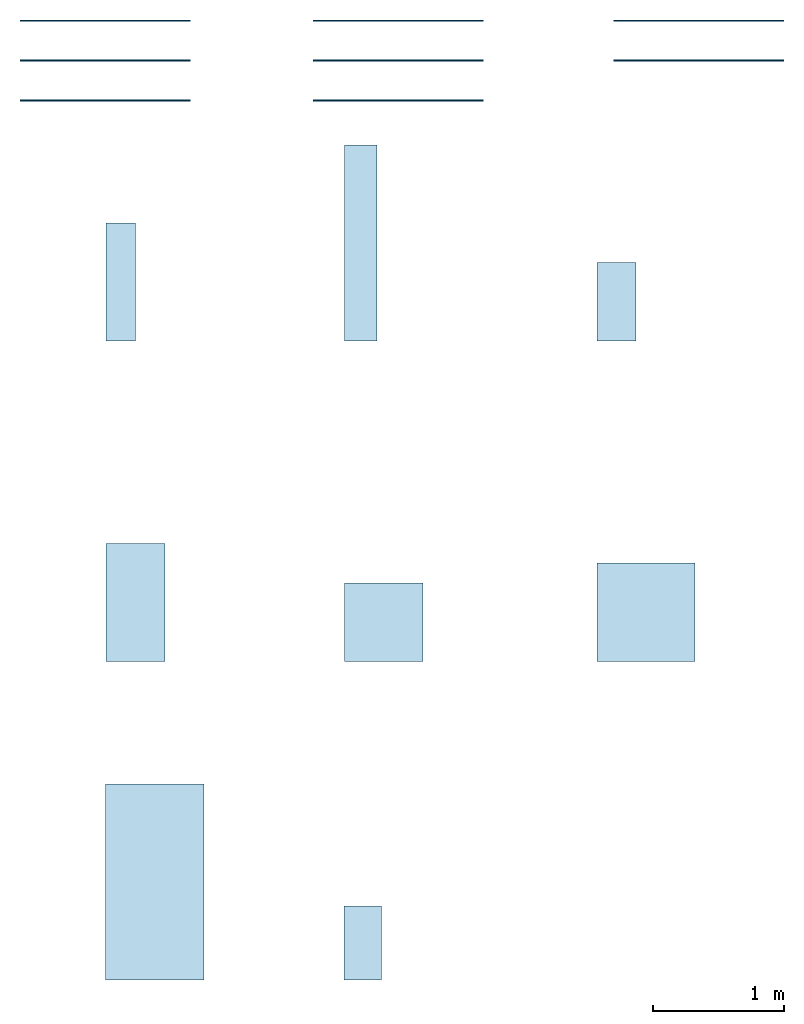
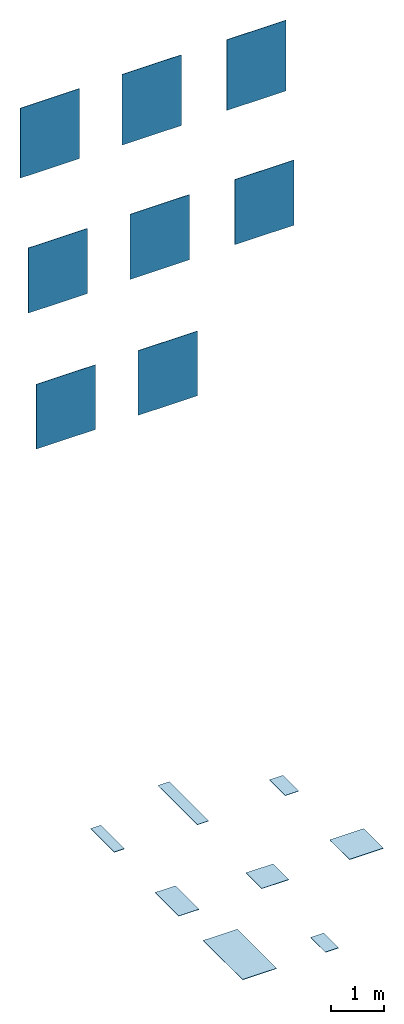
# One storey: 8 slabs, 8 walls.
"""IFC2X3 building model written with IfcOpenShell, lengths in millimetres."""

import ifcopenshell
import ifcopenshell.guid

model = None  # the IFC model being written
_history = None  # IfcOwnerHistory: only IFC2X3 demands one
_inside = {}  # id of a spatial element -> (the spatial element, [elements in it])
_under = {}  # id of a project, library or spatial element -> (it, [spatial elements below it])
_declared = {}  # id of a project -> (the project, [libraries it declares])
_typed = {}  # id of a type object -> (the type object, [elements of that type])
_made_of = {}  # id of a material, layer set ... -> (it, [elements and type objects made of it])


def new_model(schema):
    """Start an empty IFC model of exactly this schema.

    Asked for "IFC4X3", IfcOpenShell would pick the latest addendum, in which some entities
    have other attributes; the version numbers below select the first issue.
    IFC2X3 requires an IfcOwnerHistory on every rooted entity: one is made here for all.
    """
    global model, _history
    if schema == "IFC4X3":
        model = ifcopenshell.file(schema_version=(4, 3, 0, 0))
    else:
        model = ifcopenshell.file(schema=schema)
    _inside.clear()
    _under.clear()
    _declared.clear()
    _typed.clear()
    _made_of.clear()
    _history = None
    if model.schema == "IFC2X3":
        org = make("IfcOrganization", Name="unknown")
        user = make(
            "IfcPersonAndOrganization",
            ThePerson=make("IfcPerson", FamilyName="unknown"),
            TheOrganization=org,
        )
        app = make(
            "IfcApplication",
            ApplicationDeveloper=org,
            Version="unknown",
            ApplicationFullName="unknown",
            ApplicationIdentifier="unknown",
        )
        _history = make(
            "IfcOwnerHistory",
            OwningUser=user,
            OwningApplication=app,
            ChangeAction="ADDED",
            CreationDate=0,
        )
    return model


def make(cls, **values):
    """One entity of the class cls with the attributes given. An attribute that is None is left unset."""
    return model.create_entity(
        cls, **{name: value for name, value in values.items() if value is not None}
    )


def entity(cls, *values):
    """Any entity or typed value of the class cls, its attributes in the order of the schema. None: left unset."""
    e = model.create_entity(cls)
    for i, value in enumerate(values):
        if value is not None:
            e[i] = value
    return e


def rooted(cls, **values):
    """An entity with a GlobalId (a new one), such as an element, a storey or a relation."""
    return make(cls, GlobalId=ifcopenshell.guid.new(), OwnerHistory=_history, **values)


def si_unit(unit_type, name, prefix=None):
    """IfcSIUnit, for example si_unit("LENGTHUNIT", "METRE", prefix="MILLI")."""
    return make("IfcSIUnit", UnitType=unit_type, Prefix=prefix, Name=name)


def converted_unit(unit_type, name, factor, base, dimensions=None, offset=None):
    """IfcConversionBasedUnit, such as the inch: factor (a typed value) times the base unit."""
    return make(
        "IfcConversionBasedUnit"
        if offset is None
        else "IfcConversionBasedUnitWithOffset",
        ConversionOffset=offset,
        Dimensions=None
        if dimensions is None
        else entity("IfcDimensionalExponents", *dimensions),
        UnitType=unit_type,
        Name=name,
        ConversionFactor=make(
            "IfcMeasureWithUnit", ValueComponent=factor, UnitComponent=base
        ),
    )


def derived_unit(unit_type, elements):
    """IfcDerivedUnit: a product of units, each with its exponent."""
    return make(
        "IfcDerivedUnit",
        Elements=[
            make("IfcDerivedUnitElement", Unit=unit, Exponent=power)
            for unit, power in elements
        ],
        UnitType=unit_type,
    )


def assignment(units):
    """IfcUnitAssignment: the units of a project."""
    return None if units is None else make("IfcUnitAssignment", Units=units)


def point(xyz):
    """IfcCartesianPoint."""
    return None if xyz is None else make("IfcCartesianPoint", Coordinates=xyz)


def direction(xyz):
    """IfcDirection."""
    return None if xyz is None else make("IfcDirection", DirectionRatios=xyz)


def frame(location, z_axis=None, x_axis=None):
    """IfcAxis2Placement3D, a coordinate frame: its origin and axes. An axis left out is left unset."""
    return make(
        "IfcAxis2Placement3D",
        Location=point(location),
        Axis=direction(z_axis),
        RefDirection=direction(x_axis),
    )


def frame_2d(location, x_axis=None):
    """IfcAxis2Placement2D, a coordinate frame in the plane: its origin and x axis."""
    return make(
        "IfcAxis2Placement2D", Location=point(location), RefDirection=direction(x_axis)
    )


def origin():
    """The frame at (0, 0, 0) with its axes left unset."""
    return frame((0.0, 0.0, 0.0))


def origin_2d_with_axis():
    """The frame at (0, 0) in the plane with the x axis (1, 0) written out."""
    return frame_2d((0.0, 0.0), x_axis=(1.0, 0.0))


def place(relative_to, where):
    """IfcLocalPlacement: puts the frame where relative to a parent placement (None: the world)."""
    return make(
        "IfcLocalPlacement", PlacementRelTo=relative_to, RelativePlacement=where
    )


def context(
    kind, dimensions, precision=None, world=None, true_north=None, identifier=None
):
    """IfcGeometricRepresentationContext, for example the 3D "Model" context."""
    return make(
        "IfcGeometricRepresentationContext",
        ContextIdentifier=identifier,
        ContextType=kind,
        CoordinateSpaceDimension=dimensions,
        Precision=precision,
        WorldCoordinateSystem=world,
        TrueNorth=true_north,
    )


def subcontext(parent, identifier, kind, view, scale=None):
    """IfcGeometricRepresentationSubContext, for example "Body" below "Model"."""
    return make(
        "IfcGeometricRepresentationSubContext",
        ContextIdentifier=identifier,
        ContextType=kind,
        ParentContext=parent,
        TargetScale=scale,
        TargetView=view,
    )


def project(units=None, contexts=None):
    """IfcProject with its units and contexts."""
    return rooted(
        "IfcProject",
        Name="project",
        RepresentationContexts=contexts,
        UnitsInContext=assignment(units),
    )


def spatial(cls, under=None, at=None, **own):
    """A site, building, storey or space (cls), placed at a placement, below another one or the project."""
    s = rooted(cls, ObjectPlacement=at, **own)
    if under is not None:
        _under.setdefault(under.id(), (under, []))[1].append(s)
    return s


def profile(cls, at=None, kind="AREA", **sizes):
    """A parametric profile (cls). Its sizes go by their IFC names, for example OverallWidth=200.0."""
    return make(cls, ProfileType=kind, Position=at, **sizes)


def rectangle(**sizes):
    """IfcRectangleProfileDef."""
    return profile("IfcRectangleProfileDef", **sizes)


def extrude(swept, where, along, depth):
    """IfcExtrudedAreaSolid: the profile swept, set in the frame where, extruded along a direction by depth."""
    return make(
        "IfcExtrudedAreaSolid",
        SweptArea=swept,
        Position=where,
        ExtrudedDirection=direction(along),
        Depth=depth,
    )


def shape(context_of_items, identifier, shape_type, items):
    """IfcShapeRepresentation: the items that make up one representation, for example the "Body"."""
    return make(
        "IfcShapeRepresentation",
        ContextOfItems=context_of_items,
        RepresentationIdentifier=identifier,
        RepresentationType=shape_type,
        Items=items,
    )


def material(Name=None, Category=None):
    """IfcMaterial."""
    return make("IfcMaterial", Name=Name, Category=Category)


def layer(
    of_material, thickness, ventilated=None, Name=None, Category=None, Priority=None
):
    """IfcMaterialLayer: one layer of a wall or slab, of a material (None: an air gap)."""
    return make(
        "IfcMaterialLayer",
        Material=of_material,
        LayerThickness=thickness,
        IsVentilated=ventilated,
        Name=Name,
        Category=Category,
        Priority=Priority,
    )


def layer_set(layers, Name=None):
    """IfcMaterialLayerSet."""
    return make("IfcMaterialLayerSet", MaterialLayers=layers, LayerSetName=Name)


def layer_usage(for_layer_set, set_direction, sense, offset, extent=None):
    """IfcMaterialLayerSetUsage: how a layer set lies in its element."""
    return make(
        "IfcMaterialLayerSetUsage",
        ForLayerSet=for_layer_set,
        LayerSetDirection=set_direction,
        DirectionSense=sense,
        OffsetFromReferenceLine=offset,
        ReferenceExtent=extent,
    )


def made_of(thing, what):
    """Note that an element or type object is made of a material, layer set ...; save() writes the relation."""
    if what is not None:
        _made_of.setdefault(what.id(), (what, []))[1].append(thing)
    return thing


def type_object(cls, material=None, **own):
    """A type object (cls), such as IfcWallType, which elements share."""
    return made_of(rooted(cls, **own), material)


def element(
    cls,
    number,
    at=None,
    inside=None,
    cuts=None,
    type_object=None,
    material=None,
    context=None,
    identifier="Body",
    shape_type=None,
    held_by="IfcProductDefinitionShape",
    body=None,
    shapes=None,
    **own,
):
    """One element of the class cls, such as IfcWall. Its Tag is "e" and its number.

    at: its placement. inside: the storey or other place that contains it. cuts: it is an
    opening in that element (IfcRelVoidsElement). A single representation is given by context,
    identifier, shape_type and body (its items); several are given by shapes. held_by: the class
    of the entity that holds the representations. save() writes the other relations.
    """
    e = rooted(cls, Tag="e%d" % number, ObjectPlacement=at, **own)
    if body is not None:
        shapes = [shape(context, identifier, shape_type, body)]
    if shapes is not None:
        e.Representation = make(held_by, Representations=shapes)
    if inside is not None:
        _inside.setdefault(inside.id(), (inside, []))[1].append(e)
    if cuts is not None:
        rooted(
            "IfcRelVoidsElement", RelatingBuildingElement=cuts, RelatedOpeningElement=e
        )
    if type_object is not None:
        _typed.setdefault(type_object.id(), (type_object, []))[1].append(e)
    return made_of(e, material)


def aggregate(whole, parts):
    """IfcRelAggregates: a whole, such as a stair, and the parts it consists of."""
    return rooted("IfcRelAggregates", RelatingObject=whole, RelatedObjects=parts)


def save(model, path):
    """Write the relations noted so far, then the file.

    IfcRelAggregates (storeys below a building ...), IfcRelContainedInSpatialStructure (elements
    in a storey), IfcRelDefinesByType, IfcRelAssociatesMaterial and IfcRelDeclares: one each for
    every whole, place, type object, material and project.
    """
    for whole, parts in _under.values():
        aggregate(whole, parts)
    for where, things in _inside.values():
        rooted(
            "IfcRelContainedInSpatialStructure",
            RelatedElements=things,
            RelatingStructure=where,
        )
    for kind, things in _typed.values():
        rooted("IfcRelDefinesByType", RelatedObjects=things, RelatingType=kind)
    for what, things in _made_of.values():
        rooted("IfcRelAssociatesMaterial", RelatedObjects=things, RelatingMaterial=what)
    for by, libraries in _declared.values():
        rooted("IfcRelDeclares", RelatingContext=by, RelatedDefinitions=libraries)
    model.write(path)


model = new_model("IFC2X3")

# Units and contexts
model_context = context("Model", 3, precision=0.01, world=origin(), true_north=direction((6.12303176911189e-17, 1.0)))
body_context = subcontext(model_context, "Body", "Model", "MODEL_VIEW")
ifc_project = project(units=[si_unit("LENGTHUNIT", "METRE", prefix="MILLI"), si_unit("AREAUNIT", "SQUARE_METRE"), si_unit("VOLUMEUNIT", "CUBIC_METRE"), converted_unit("PLANEANGLEUNIT", "DEGREE", entity("IfcRatioMeasure", 0.0174532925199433), si_unit("PLANEANGLEUNIT", "RADIAN"), dimensions=[0, 0, 0, 0, 0, 0, 0]), si_unit("MASSUNIT", "GRAM", prefix="KILO"), derived_unit("MASSDENSITYUNIT", [(si_unit("MASSUNIT", "GRAM", prefix="KILO"), 1), (si_unit("LENGTHUNIT", "METRE"), -3)]), derived_unit("MOMENTOFINERTIAUNIT", [(si_unit("LENGTHUNIT", "METRE"), 4)]), si_unit("TIMEUNIT", "SECOND"), si_unit("FREQUENCYUNIT", "HERTZ"), si_unit("THERMODYNAMICTEMPERATUREUNIT", "DEGREE_CELSIUS"), derived_unit("THERMALTRANSMITTANCEUNIT", [(si_unit("MASSUNIT", "GRAM", prefix="KILO"), 1), (si_unit("THERMODYNAMICTEMPERATUREUNIT", "KELVIN"), -1), (si_unit("TIMEUNIT", "SECOND"), -3)]), derived_unit("VOLUMETRICFLOWRATEUNIT", [(si_unit("LENGTHUNIT", "METRE"), 3), (si_unit("TIMEUNIT", "SECOND"), -1)]), si_unit("ELECTRICCURRENTUNIT", "AMPERE"), si_unit("ELECTRICVOLTAGEUNIT", "VOLT"), si_unit("POWERUNIT", "WATT"), si_unit("FORCEUNIT", "NEWTON", prefix="KILO"), si_unit("ILLUMINANCEUNIT", "LUX"), si_unit("LUMINOUSFLUXUNIT", "LUMEN"), si_unit("LUMINOUSINTENSITYUNIT", "CANDELA"), derived_unit("USERDEFINED", [(si_unit("MASSUNIT", "GRAM", prefix="KILO"), -1), (si_unit("LENGTHUNIT", "METRE"), -2), (si_unit("TIMEUNIT", "SECOND"), 3), (si_unit("LUMINOUSFLUXUNIT", "LUMEN"), 1)]), derived_unit("LINEARVELOCITYUNIT", [(si_unit("LENGTHUNIT", "METRE"), 1), (si_unit("TIMEUNIT", "SECOND"), -1)]), si_unit("PRESSUREUNIT", "PASCAL"), derived_unit("USERDEFINED", [(si_unit("LENGTHUNIT", "METRE"), -2), (si_unit("MASSUNIT", "GRAM", prefix="KILO"), 1), (si_unit("TIMEUNIT", "SECOND"), -2)]), derived_unit("LINEARFORCEUNIT", [(si_unit("MASSUNIT", "GRAM", prefix="KILO"), 1), (si_unit("LENGTHUNIT", "METRE"), 1), (si_unit("TIMEUNIT", "SECOND"), -2), (si_unit("LENGTHUNIT", "METRE"), -1)]), derived_unit("PLANARFORCEUNIT", [(si_unit("MASSUNIT", "GRAM", prefix="KILO"), 1), (si_unit("LENGTHUNIT", "METRE"), 1), (si_unit("TIMEUNIT", "SECOND"), -2), (si_unit("LENGTHUNIT", "METRE"), -2)])], contexts=[model_context])

# Site, building, storey
site_placement = place(None, origin())
site = spatial("IfcSite", under=ifc_project, at=site_placement, Name="Default", CompositionType="ELEMENT")
building_placement = place(site_placement, origin())
building = spatial("IfcBuilding", under=site, at=building_placement, CompositionType="ELEMENT")
storey_placement = place(building_placement, origin())
storey = spatial("IfcBuildingStorey", under=building, at=storey_placement, Name="Level 0", CompositionType="ELEMENT", Elevation=0.0)

# Slabs
ifc_material_1 = material(Name="Plant-Powder-30x60 NE95")
ifc_layer_1 = layer(ifc_material_1, 9.0)
ifc_material_2 = material(Name="<Unnamed>")
ifc_layer_2 = layer(ifc_material_2, 1.0)
ifc_layer_set_1 = layer_set([ifc_layer_1, ifc_layer_2], Name="Floor:Floor_Tiles_Refin-Plant-Powder-30x60 NE95")
ifc_layer_usage_1 = layer_usage(ifc_layer_set_1, "AXIS3", "POSITIVE", 0.0)
slab_type_1 = type_object("IfcSlabType", Name="Floor:Floor_Tiles_Refin-Plant-Powder-30x60 NE95", PredefinedType="FLOOR", material=ifc_layer_set_1)
slab_1_placement = place(storey_placement, origin())
element("IfcSlab", 1, at=slab_1_placement, inside=storey, type_object=slab_type_1, material=ifc_layer_usage_1, Name="Floor:Floor_Tiles_Refin-Plant-Powder-30x60 NE95", ObjectType="Floor:Floor_Tiles_Refin-Plant-Powder-30x60 NE95", PredefinedType="FLOOR", context=body_context, shape_type="SweptSolid", body=[
    extrude(rectangle(XDim=600.0, YDim=299.999999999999, at=frame_2d((0.0, 1.08002495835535e-12), x_axis=(1.0, 0.0))), frame((10477.1861418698, 5989.46237428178, 0.0), z_axis=(0.0, 0.0, -1.0), x_axis=(0.0, 1.0, 0.0)), (0.0, 0.0, 1.0), 10.0),
])
ifc_material_3 = material(Name="Plant-Powder-22.5x90 LZ20")
ifc_layer_3 = layer(ifc_material_3, 9.0)
ifc_layer_4 = layer(ifc_material_2, 1.0)
ifc_layer_set_2 = layer_set([ifc_layer_3, ifc_layer_4], Name="Floor:Floor_Tiles_Refin-Plant-Powder-22.5x90 LZ20")
ifc_layer_usage_2 = layer_usage(ifc_layer_set_2, "AXIS3", "POSITIVE", 0.0)
slab_type_2 = type_object("IfcSlabType", Name="Floor:Floor_Tiles_Refin-Plant-Powder-22.5x90 LZ20", PredefinedType="FLOOR", material=ifc_layer_set_2)
slab_2_placement = place(storey_placement, origin())
element("IfcSlab", 2, at=slab_2_placement, inside=storey, type_object=slab_type_2, material=ifc_layer_usage_2, Name="Floor:Floor_Tiles_Refin-Plant-Powder-22.5x90 LZ20", ObjectType="Floor:Floor_Tiles_Refin-Plant-Powder-22.5x90 LZ20", PredefinedType="FLOOR", context=body_context, shape_type="SweptSolid", body=[
    extrude(rectangle(XDim=900.0, YDim=225.0, at=frame_2d((-5.40012479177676e-13, -5.40012479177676e-13), x_axis=(1.0, 0.0))), frame((6686.87520617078, 6139.4623742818, 0.0), z_axis=(0.0, 0.0, -1.0), x_axis=(0.0, 1.0, 0.0)), (0.0, 0.0, 1.0), 10.0),
])
ifc_material_4 = material(Name="Plant-Powder-75x75 MD02")
ifc_layer_5 = layer(ifc_material_4, 9.0)
ifc_layer_6 = layer(ifc_material_2, 1.0)
ifc_layer_set_3 = layer_set([ifc_layer_5, ifc_layer_6], Name="Floor:Floor_Tiles_Refin-Plant-Powder-75x75 MD02")
ifc_layer_usage_3 = layer_usage(ifc_layer_set_3, "AXIS3", "POSITIVE", 0.0)
slab_type_3 = type_object("IfcSlabType", Name="Floor:Floor_Tiles_Refin-Plant-Powder-75x75 MD02", PredefinedType="FLOOR", material=ifc_layer_set_3)
slab_3_placement = place(storey_placement, origin())
element("IfcSlab", 3, at=slab_3_placement, inside=storey, type_object=slab_type_3, material=ifc_layer_usage_3, Name="Floor:Floor_Tiles_Refin-Plant-Powder-75x75 MD02", ObjectType="Floor:Floor_Tiles_Refin-Plant-Powder-75x75 MD02", PredefinedType="FLOOR", context=body_context, shape_type="SweptSolid", body=[
    extrude(rectangle(XDim=750.0, YDim=750.000000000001, at=frame_2d((2.55795384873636e-13, 1.08002495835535e-12), x_axis=(1.0, 0.0))), frame((10702.1861418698, 3614.46237428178, 0.0), z_axis=(0.0, 0.0, -1.0), x_axis=(0.0, 1.0, 0.0)), (0.0, 0.0, 1.0), 10.0),
])
ifc_material_5 = material(Name="Plant-Powder-60x60 LY24")
ifc_layer_7 = layer(ifc_material_5, 9.0)
ifc_layer_8 = layer(ifc_material_2, 1.0)
ifc_layer_set_4 = layer_set([ifc_layer_7, ifc_layer_8], Name="Floor:Floor_Tiles_Refin-Plant-Powder-60x60 LY24")
ifc_layer_usage_4 = layer_usage(ifc_layer_set_4, "AXIS3", "POSITIVE", 0.0)
slab_type_4 = type_object("IfcSlabType", Name="Floor:Floor_Tiles_Refin-Plant-Powder-60x60 LY24", PredefinedType="FLOOR", material=ifc_layer_set_4)
slab_4_placement = place(storey_placement, origin())
element("IfcSlab", 4, at=slab_4_placement, inside=storey, type_object=slab_type_4, material=ifc_layer_usage_4, Name="Floor:Floor_Tiles_Refin-Plant-Powder-60x60 LY24", ObjectType="Floor:Floor_Tiles_Refin-Plant-Powder-60x60 LY24", PredefinedType="FLOOR", context=body_context, shape_type="SweptSolid", body=[
    extrude(rectangle(XDim=600.0, YDim=600.0, at=origin_2d_with_axis()), frame((8697.39240545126, 3539.4623742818, 0.0), z_axis=(0.0, 0.0, -1.0), x_axis=(0.0, 1.0, 0.0)), (0.0, 0.0, 1.0), 10.0),
])
ifc_material_6 = material(Name="Plant-Powder-45x90 LY19")
ifc_layer_9 = layer(ifc_material_6, 9.0)
ifc_layer_10 = layer(ifc_material_2, 1.0)
ifc_layer_set_5 = layer_set([ifc_layer_9, ifc_layer_10], Name="Floor:Floor_Tiles_Refin-Plant-Powder-45x90 LY19")
ifc_layer_usage_5 = layer_usage(ifc_layer_set_5, "AXIS3", "POSITIVE", 0.0)
slab_type_5 = type_object("IfcSlabType", Name="Floor:Floor_Tiles_Refin-Plant-Powder-45x90 LY19", PredefinedType="FLOOR", material=ifc_layer_set_5)
slab_5_placement = place(storey_placement, origin())
element("IfcSlab", 5, at=slab_5_placement, inside=storey, type_object=slab_type_5, material=ifc_layer_usage_5, Name="Floor:Floor_Tiles_Refin-Plant-Powder-45x90 LY19", ObjectType="Floor:Floor_Tiles_Refin-Plant-Powder-45x90 LY19", PredefinedType="FLOOR", context=body_context, shape_type="SweptSolid", body=[
    extrude(rectangle(XDim=900.0, YDim=449.999999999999, at=frame_2d((-5.40012479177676e-13, -1.08002495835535e-12), x_axis=(1.0, 0.0))), frame((6799.37520617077, 3689.4623742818, 0.0), z_axis=(0.0, 0.0, -1.0), x_axis=(0.0, 1.0, 0.0)), (0.0, 0.0, 1.0), 10.0),
])
ifc_material_7 = material(Name="Plant-Powder-75x150 LZ42")
ifc_layer_11 = layer(ifc_material_7, 9.0)
ifc_layer_12 = layer(ifc_material_2, 1.0)
ifc_layer_set_6 = layer_set([ifc_layer_11, ifc_layer_12], Name="Floor:Floor_Tiles_Refin-Plant-Powder-75x150 LZ42")
ifc_layer_usage_6 = layer_usage(ifc_layer_set_6, "AXIS3", "POSITIVE", 0.0)
slab_type_6 = type_object("IfcSlabType", Name="Floor:Floor_Tiles_Refin-Plant-Powder-75x150 LZ42", PredefinedType="FLOOR", material=ifc_layer_set_6)
slab_6_placement = place(storey_placement, origin())
element("IfcSlab", 6, at=slab_6_placement, inside=storey, type_object=slab_type_6, material=ifc_layer_usage_6, Name="Floor:Floor_Tiles_Refin-Plant-Powder-75x150 LZ42", ObjectType="Floor:Floor_Tiles_Refin-Plant-Powder-75x150 LZ42", PredefinedType="FLOOR", context=body_context, shape_type="SweptSolid", body=[
    extrude(rectangle(XDim=1500.0, YDim=750.000000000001, at=frame_2d((0.0, -1.08002495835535e-12), x_axis=(1.0, 0.0))), frame((6947.60093306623, 1553.43672349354, 0.0), z_axis=(0.0, 0.0, -1.0), x_axis=(0.0, 1.0, 0.0)), (0.0, 0.0, 1.0), 10.0),
])
ifc_material_8 = material(Name="Plant-Powder-25x150 LZ32")
ifc_layer_13 = layer(ifc_material_8, 9.0)
ifc_layer_14 = layer(ifc_material_2, 1.0)
ifc_layer_set_7 = layer_set([ifc_layer_13, ifc_layer_14], Name="Floor:Floor_Tiles_Refin-Plant-Powder-25x150 LZ32")
ifc_layer_usage_7 = layer_usage(ifc_layer_set_7, "AXIS3", "POSITIVE", 0.0)
slab_type_7 = type_object("IfcSlabType", Name="Floor:Floor_Tiles_Refin-Plant-Powder-25x150 LZ32", PredefinedType="FLOOR", material=ifc_layer_set_7)
slab_7_placement = place(storey_placement, origin())
element("IfcSlab", 7, at=slab_7_placement, inside=storey, type_object=slab_type_7, material=ifc_layer_usage_7, Name="Floor:Floor_Tiles_Refin-Plant-Powder-25x150 LZ32", ObjectType="Floor:Floor_Tiles_Refin-Plant-Powder-25x150 LZ32", PredefinedType="FLOOR", context=body_context, shape_type="SweptSolid", body=[
    extrude(rectangle(XDim=1500.0, YDim=249.999999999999, at=frame_2d((5.11590769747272e-13, 0.0), x_axis=(1.0, 0.0))), frame((8522.39240545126, 6438.41920639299, 0.0), z_axis=(0.0, 0.0, -1.0), x_axis=(0.0, 1.0, 0.0)), (0.0, 0.0, 1.0), 10.0),
])
ifc_material_9 = material(Name="Plant-Powder-Muretto-28.5x56.5 LY95")
ifc_layer_15 = layer(ifc_material_9, 9.0)
ifc_layer_16 = layer(ifc_material_2, 1.0)
ifc_layer_set_8 = layer_set([ifc_layer_15, ifc_layer_16], Name="Floor:Floor_Tiles_Refin-Plant-Powder-Muretto-28.5x56.5 LY95")
ifc_layer_usage_8 = layer_usage(ifc_layer_set_8, "AXIS3", "POSITIVE", 0.0)
slab_type_8 = type_object("IfcSlabType", Name="Floor:Floor_Tiles_Refin-Plant-Powder-Muretto-28.5x56.5 LY95", PredefinedType="FLOOR", material=ifc_layer_set_8)
slab_8_placement = place(storey_placement, origin())
element("IfcSlab", 8, at=slab_8_placement, inside=storey, type_object=slab_type_8, material=ifc_layer_usage_8, Name="Floor:Floor_Tiles_Refin-Plant-Powder-Muretto-28.5x56.5 LY95", ObjectType="Floor:Floor_Tiles_Refin-Plant-Powder-Muretto-28.5x56.5 LY95", PredefinedType="FLOOR", context=body_context, shape_type="SweptSolid", body=[
    extrude(rectangle(XDim=565.0, YDim=285.0, at=origin_2d_with_axis()), frame((8538.11813234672, 1085.93672349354, 0.0), z_axis=(0.0, 0.0, -1.0), x_axis=(0.0, 1.0, 0.0)), (0.0, 0.0, 1.0), 10.0),
])

# Walls
ifc_layer_17 = layer(ifc_material_2, 1.0)
ifc_layer_18 = layer(ifc_material_8, 9.0)
ifc_layer_set_9 = layer_set([ifc_layer_17, ifc_layer_18], Name="Basic Wall:Wall_Tiles_Refin-Plant-Powder-25x150 LZ32")
ifc_layer_usage_9 = layer_usage(ifc_layer_set_9, "AXIS2", "NEGATIVE", 5.0)
wall_type_1 = type_object("IfcWallType", Name="Basic Wall:Wall_Tiles_Refin-Plant-Powder-25x150 LZ32", PredefinedType="STANDARD", material=ifc_layer_set_9)
wall_1_placement = place(storey_placement, frame((8157.37520617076, 8137.38386313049, 14387.6770443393)))
element("IfcWallStandardCase", 9, at=wall_1_placement, inside=storey, type_object=wall_type_1, material=ifc_layer_usage_9, Name="Basic Wall:Wall_Tiles_Refin-Plant-Powder-25x150 LZ32", ObjectType="Basic Wall:Wall_Tiles_Refin-Plant-Powder-25x150 LZ32", context=body_context, shape_type="SweptSolid", body=[
    extrude(rectangle(XDim=1300.0, YDim=9.99999999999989, at=frame_2d((650.0, 7.63833440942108e-14), x_axis=(-1.0, 0.0))), origin(), (0.0, 0.0, 1.0), 1641.74173522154),
])
ifc_layer_19 = layer(ifc_material_2, 1.0)
ifc_layer_20 = layer(ifc_material_1, 9.0)
ifc_layer_set_10 = layer_set([ifc_layer_19, ifc_layer_20], Name="Basic Wall:Wall_Tiles_Refin-Plant-Powder-30x60 NE95")
ifc_layer_usage_10 = layer_usage(ifc_layer_set_10, "AXIS2", "NEGATIVE", 5.0)
wall_type_2 = type_object("IfcWallType", Name="Basic Wall:Wall_Tiles_Refin-Plant-Powder-30x60 NE95", PredefinedType="STANDARD", material=ifc_layer_set_10)
wall_2_placement = place(storey_placement, frame((10457.3752061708, 8137.38386313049, 14387.6770443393)))
element("IfcWallStandardCase", 10, at=wall_2_placement, inside=storey, type_object=wall_type_2, material=ifc_layer_usage_10, Name="Basic Wall:Wall_Tiles_Refin-Plant-Powder-30x60 NE95", ObjectType="Basic Wall:Wall_Tiles_Refin-Plant-Powder-30x60 NE95", context=body_context, shape_type="SweptSolid", body=[
    extrude(rectangle(XDim=1300.0, YDim=9.99999999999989, at=frame_2d((650.0, 7.63833440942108e-14), x_axis=(-1.0, 0.0))), origin(), (0.0, 0.0, 1.0), 1641.74173522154),
])
ifc_layer_21 = layer(ifc_material_2, 1.0)
ifc_layer_22 = layer(ifc_material_3, 9.0)
ifc_layer_set_11 = layer_set([ifc_layer_21, ifc_layer_22], Name="Basic Wall:Wall_Tiles_Refin-Plant-Powder-22.5x90 LZ20")
ifc_layer_usage_11 = layer_usage(ifc_layer_set_11, "AXIS2", "NEGATIVE", 5.0)
wall_type_3 = type_object("IfcWallType", Name="Basic Wall:Wall_Tiles_Refin-Plant-Powder-22.5x90 LZ20", PredefinedType="STANDARD", material=ifc_layer_set_11)
wall_3_placement = place(storey_placement, frame((5917.37520617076, 8137.38386313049, 14403.726734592)))
element("IfcWallStandardCase", 11, at=wall_3_placement, inside=storey, type_object=wall_type_3, material=ifc_layer_usage_11, Name="Basic Wall:Wall_Tiles_Refin-Plant-Powder-22.5x90 LZ20", ObjectType="Basic Wall:Wall_Tiles_Refin-Plant-Powder-22.5x90 LZ20", context=body_context, shape_type="SweptSolid", body=[
    extrude(rectangle(XDim=1300.0, YDim=9.99999999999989, at=frame_2d((650.0, 7.63833440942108e-14), x_axis=(-1.0, 0.0))), origin(), (0.0, 0.0, 1.0), 1625.69204496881),
])
ifc_layer_23 = layer(ifc_material_2, 1.0)
ifc_layer_24 = layer(ifc_material_6, 9.0)
ifc_layer_set_12 = layer_set([ifc_layer_23, ifc_layer_24], Name="Basic Wall:Wall_Tiles_Refin-Plant-Powder-45x90 LY19")
ifc_layer_usage_12 = layer_usage(ifc_layer_set_12, "AXIS2", "NEGATIVE", 5.0)
wall_type_4 = type_object("IfcWallType", Name="Basic Wall:Wall_Tiles_Refin-Plant-Powder-45x90 LY19", PredefinedType="STANDARD", material=ifc_layer_set_12)
wall_4_placement = place(storey_placement, frame((5917.37520617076, 7832.38386313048, 11452.5436262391)))
element("IfcWallStandardCase", 12, at=wall_4_placement, inside=storey, type_object=wall_type_4, material=ifc_layer_usage_12, Name="Basic Wall:Wall_Tiles_Refin-Plant-Powder-45x90 LY19", ObjectType="Basic Wall:Wall_Tiles_Refin-Plant-Powder-45x90 LY19", context=body_context, shape_type="SweptSolid", body=[
    extrude(rectangle(XDim=1300.0, YDim=9.99999999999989, at=frame_2d((650.0, 0.0), x_axis=(-1.0, 0.0))), origin(), (0.0, 0.0, 1.0), 1513.19855655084),
])
ifc_layer_25 = layer(ifc_material_2, 1.0)
ifc_layer_26 = layer(ifc_material_5, 9.0)
ifc_layer_set_13 = layer_set([ifc_layer_25, ifc_layer_26], Name="Basic Wall:Wall_Tiles_Refin-Plant-Powder-60x60 LY24")
ifc_layer_usage_13 = layer_usage(ifc_layer_set_13, "AXIS2", "NEGATIVE", 5.0)
wall_type_5 = type_object("IfcWallType", Name="Basic Wall:Wall_Tiles_Refin-Plant-Powder-60x60 LY24", PredefinedType="STANDARD", material=ifc_layer_set_13)
wall_5_placement = place(storey_placement, frame((8157.37520617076, 7832.38386313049, 11452.5436262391)))
element("IfcWallStandardCase", 13, at=wall_5_placement, inside=storey, type_object=wall_type_5, material=ifc_layer_usage_13, Name="Basic Wall:Wall_Tiles_Refin-Plant-Powder-60x60 LY24", ObjectType="Basic Wall:Wall_Tiles_Refin-Plant-Powder-60x60 LY24", context=body_context, shape_type="SweptSolid", body=[
    extrude(rectangle(XDim=1300.0, YDim=9.99999999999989, at=frame_2d((650.0, 0.0), x_axis=(-1.0, 0.0))), origin(), (0.0, 0.0, 1.0), 1513.19855655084),
])
ifc_layer_27 = layer(ifc_material_2, 1.0)
ifc_layer_28 = layer(ifc_material_4, 9.0)
ifc_layer_set_14 = layer_set([ifc_layer_27, ifc_layer_28], Name="Basic Wall:Wall_Tiles_Refin-Plant-Powder-75x75 MD02")
ifc_layer_usage_14 = layer_usage(ifc_layer_set_14, "AXIS2", "NEGATIVE", 5.0)
wall_type_6 = type_object("IfcWallType", Name="Basic Wall:Wall_Tiles_Refin-Plant-Powder-75x75 MD02", PredefinedType="STANDARD", material=ifc_layer_set_14)
wall_6_placement = place(storey_placement, frame((10457.3752061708, 7832.38386313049, 11452.5436262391)))
element("IfcWallStandardCase", 14, at=wall_6_placement, inside=storey, type_object=wall_type_6, material=ifc_layer_usage_14, Name="Basic Wall:Wall_Tiles_Refin-Plant-Powder-75x75 MD02", ObjectType="Basic Wall:Wall_Tiles_Refin-Plant-Powder-75x75 MD02", context=body_context, shape_type="SweptSolid", body=[
    extrude(rectangle(XDim=1300.0, YDim=9.99999999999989, at=frame_2d((650.000000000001, 0.0), x_axis=(-1.0, 0.0))), origin(), (0.0, 0.0, 1.0), 1513.19855655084),
])
ifc_layer_29 = layer(ifc_material_2, 1.0)
ifc_layer_30 = layer(ifc_material_7, 9.0)
ifc_layer_set_15 = layer_set([ifc_layer_29, ifc_layer_30], Name="Basic Wall:Wall_Tiles_Refin-Plant-Powder-75x150 LZ42")
ifc_layer_usage_15 = layer_usage(ifc_layer_set_15, "AXIS2", "NEGATIVE", 5.0)
wall_type_7 = type_object("IfcWallType", Name="Basic Wall:Wall_Tiles_Refin-Plant-Powder-75x150 LZ42", PredefinedType="STANDARD", material=ifc_layer_set_15)
wall_7_placement = place(storey_placement, frame((5917.37520617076, 7527.38386313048, 8479.10272143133)))
element("IfcWallStandardCase", 15, at=wall_7_placement, inside=storey, type_object=wall_type_7, material=ifc_layer_usage_15, Name="Basic Wall:Wall_Tiles_Refin-Plant-Powder-75x150 LZ42", ObjectType="Basic Wall:Wall_Tiles_Refin-Plant-Powder-75x150 LZ42", context=body_context, shape_type="SweptSolid", body=[
    extrude(rectangle(XDim=1300.0, YDim=9.99999999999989, at=frame_2d((650.0, 0.0), x_axis=(-1.0, 0.0))), origin(), (0.0, 0.0, 1.0), 1502.57401590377),
])
ifc_layer_31 = layer(ifc_material_2, 1.0)
ifc_layer_32 = layer(ifc_material_9, 9.0)
ifc_layer_set_16 = layer_set([ifc_layer_31, ifc_layer_32], Name="Basic Wall:Wall_Tiles_Refin-Plant-Powder-Muretto-28.5x56.5 LY95")
ifc_layer_usage_16 = layer_usage(ifc_layer_set_16, "AXIS2", "NEGATIVE", 5.0)
wall_type_8 = type_object("IfcWallType", Name="Basic Wall:Wall_Tiles_Refin-Plant-Powder-Muretto-28.5x56.5 LY95", PredefinedType="STANDARD", material=ifc_layer_set_16)
wall_8_placement = place(storey_placement, frame((8157.37520617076, 7527.38386313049, 8479.10272143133)))
element("IfcWallStandardCase", 16, at=wall_8_placement, inside=storey, type_object=wall_type_8, material=ifc_layer_usage_16, Name="Basic Wall:Wall_Tiles_Refin-Plant-Powder-Muretto-28.5x56.5 LY95", ObjectType="Basic Wall:Wall_Tiles_Refin-Plant-Powder-Muretto-28.5x56.5 LY95", context=body_context, shape_type="SweptSolid", body=[
    extrude(rectangle(XDim=1300.0, YDim=9.99999999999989, at=frame_2d((650.0, 0.0), x_axis=(-1.0, 0.0))), origin(), (0.0, 0.0, 1.0), 1502.57401590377),
])

save(model, "model.ifc")
